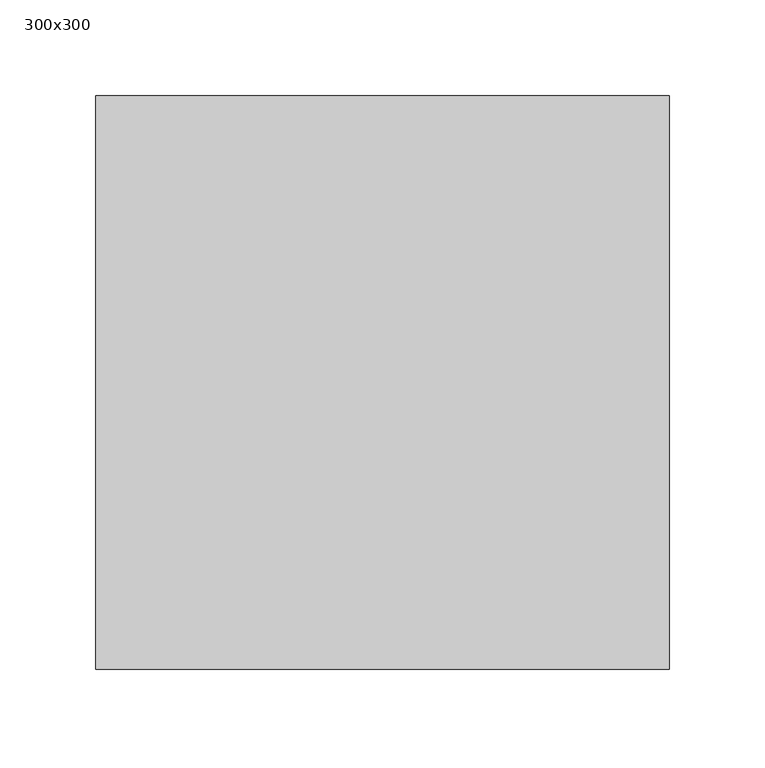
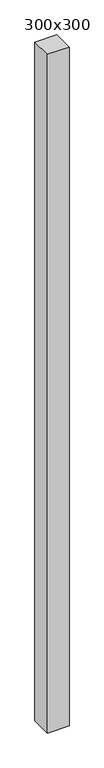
"""IFC4 building model written with IfcOpenShell, lengths in millimetres: column geometry, (CL)_Колонна _Прямоугольная : 300x300."""

from ifc_helpers import new_model, si_unit, frame, origin, place, context, project, spatial, polyline, outline, extrude, source, transform, mapped, element, save


def column_300x300_84cb1d97(model_context):
    return source(origin(), model_context, "Body", "SweptSolid", [
        extrude(outline(polyline([(150.0, 150.0), (150.0, -150.0), (-150.0, -150.0), (-150.0, 150.0), (150.0, 150.0)])), frame((0.0, 0.0, -3040.0), z_axis=(0.0, 0.0, 1.0), x_axis=(1.0, 0.0, 0.0)), (0.0, 0.0, 1.0), 9940.0),
    ])


if __name__ == "__main__":
    model = new_model("IFC4")
    model_context = context("Model", 3, world=origin())
    ifc_project = project(units=[si_unit("LENGTHUNIT", "METRE", prefix="MILLI")], contexts=[model_context])
    site = spatial("IfcSite", under=ifc_project)
    building = spatial("IfcBuilding", under=site)
    placement = place(None, origin())
    column_300x300_shape = column_300x300_84cb1d97(model_context)
    element("IfcColumn", 1, ObjectType="(CL)_Колонна _Прямоугольная : 300x300", at=placement, inside=building, context=model_context, shape_type="MappedRepresentation", body=[
        mapped(column_300x300_shape, transform((0.0, 0.0, 0.0), x_axis=(1.0, 0.0, 0.0), y_axis=(0.0, 1.0, 0.0), z_axis=(0.0, 0.0, 1.0))),
    ])
    save(model, "model.ifc")
